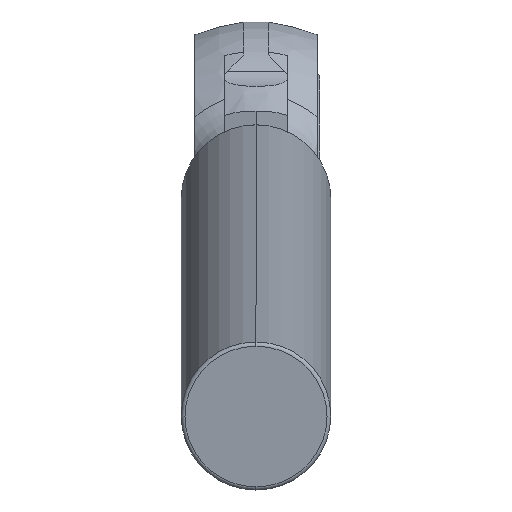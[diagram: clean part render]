
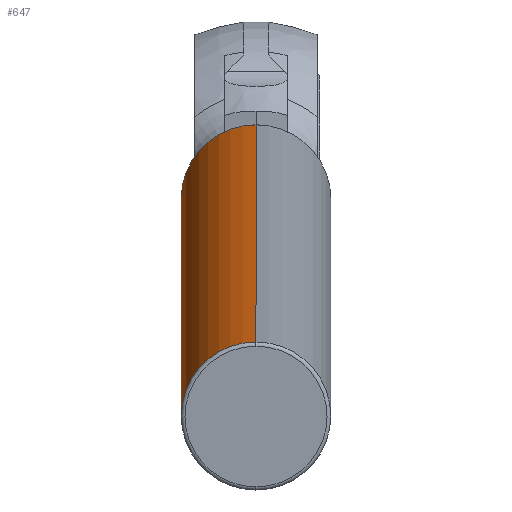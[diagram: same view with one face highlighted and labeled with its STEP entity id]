
A CAD part, left-side view. The second image highlights one B-rep face of the part: STEP entity #647.
In plain terms, the highlighted cylindrical face has radius 30 mm (diameter 60 mm), a partial arc.
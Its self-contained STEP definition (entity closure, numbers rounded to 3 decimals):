
#195 = VERTEX_POINT ( 'NONE', #1030 ) ;
#215 = AXIS2_PLACEMENT_3D ( 'NONE', #1558, #1533, #2481 ) ;
#230 = CYLINDRICAL_SURFACE ( 'NONE', #1060, 30. ) ;
#272 = VERTEX_POINT ( 'NONE', #280 ) ;
#280 = CARTESIAN_POINT ( 'NONE',  ( -552.667, -194., 617.989 ) ) ;
#340 = DIRECTION ( 'NONE',  ( -0.144, 0., 0.99 ) ) ;
#368 = LINE ( 'NONE', #1368, #2277 ) ;
#405 = CARTESIAN_POINT ( 'NONE',  ( -618.545, -194., 638.695 ) ) ;
#417 = VECTOR ( 'NONE', #1744, 1000. ) ;
#422 = CIRCLE ( 'NONE', #215, 30. ) ;
#647 = ADVANCED_FACE ( 'NONE', ( #3079 ), #230, .T. ) ;
#693 = ORIENTED_EDGE ( 'NONE', *, *, #1829, .T. ) ;
#756 = EDGE_CURVE ( 'NONE', #195, #1977, #368, .T. ) ;
#855 = DIRECTION ( 'NONE',  ( -0.99, 0., -0.144 ) ) ;
#877 = CARTESIAN_POINT ( 'NONE',  ( -561.329, -194., 677.36 ) ) ;
#1030 = CARTESIAN_POINT ( 'NONE',  ( 35.948, -194., 764.501 ) ) ;
#1060 = AXIS2_PLACEMENT_3D ( 'NONE', #405, #3097, #1391 ) ;
#1077 = CIRCLE ( 'NONE', #1172, 30. ) ;
#1172 = AXIS2_PLACEMENT_3D ( 'NONE', #2042, #1574, #340 ) ;
#1368 = CARTESIAN_POINT ( 'NONE',  ( -622.877, -194., 668.38 ) ) ;
#1391 = DIRECTION ( 'NONE',  ( -0.144, 0., 0.99 ) ) ;
#1464 = ORIENTED_EDGE ( 'NONE', *, *, #2205, .F. ) ;
#1533 = DIRECTION ( 'NONE',  ( -0.99, 0., -0.144 ) ) ;
#1551 = CARTESIAN_POINT ( 'NONE',  ( -614.214, -194., 609.009 ) ) ;
#1558 = CARTESIAN_POINT ( 'NONE',  ( 40.279, -194., 734.815 ) ) ;
#1566 = LINE ( 'NONE', #1551, #417 ) ;
#1574 = DIRECTION ( 'NONE',  ( -0.99, 0., -0.144 ) ) ;
#1744 = DIRECTION ( 'NONE',  ( -0.99, 0., -0.144 ) ) ;
#1819 = CARTESIAN_POINT ( 'NONE',  ( 44.61, -194., 705.13 ) ) ;
#1829 = EDGE_CURVE ( 'NONE', #2676, #272, #1566, .T. ) ;
#1882 = ORIENTED_EDGE ( 'NONE', *, *, #756, .F. ) ;
#1977 = VERTEX_POINT ( 'NONE', #877 ) ;
#2042 = CARTESIAN_POINT ( 'NONE',  ( -556.998, -194., 647.674 ) ) ;
#2205 = EDGE_CURVE ( 'NONE', #1977, #272, #1077, .T. ) ;
#2277 = VECTOR ( 'NONE', #855, 1000. ) ;
#2450 = ORIENTED_EDGE ( 'NONE', *, *, #3068, .T. ) ;
#2481 = DIRECTION ( 'NONE',  ( -0.144, 0., 0.99 ) ) ;
#2482 = EDGE_LOOP ( 'NONE', ( #2450, #693, #1464, #1882 ) ) ;
#2676 = VERTEX_POINT ( 'NONE', #1819 ) ;
#3068 = EDGE_CURVE ( 'NONE', #195, #2676, #422, .T. ) ;
#3079 = FACE_OUTER_BOUND ( 'NONE', #2482, .T. ) ;
#3097 = DIRECTION ( 'NONE',  ( -0.99, 0., -0.144 ) ) ;
